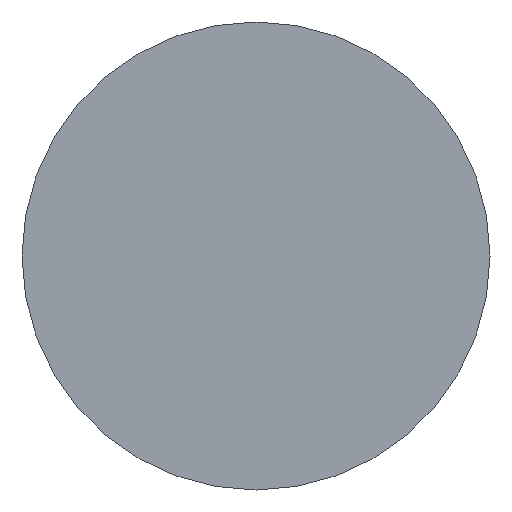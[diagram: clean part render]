
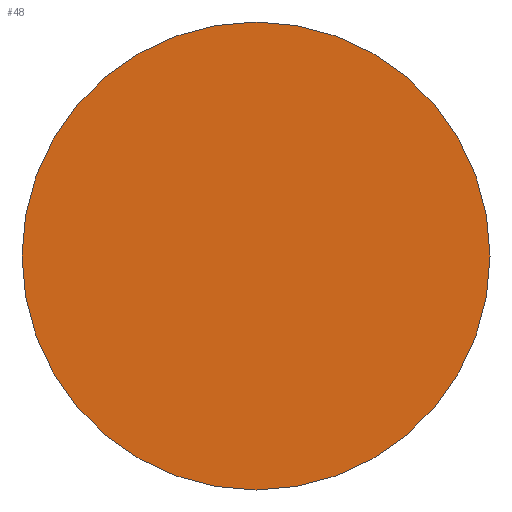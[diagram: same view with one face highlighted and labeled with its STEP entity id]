
A CAD part, front view. The second image highlights one B-rep face of the part: STEP entity #48.
In plain terms, the highlighted planar face has unit normal (0, -1, 0).
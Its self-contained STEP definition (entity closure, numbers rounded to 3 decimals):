
#1=CARTESIAN_POINT('',(0.,0.,0.));
#2=DIRECTION('',(0.,1.,0.));
#3=DIRECTION('',(1.,0.,0.));
#4=AXIS2_PLACEMENT_3D('',#1,#2,#3);
#6=CARTESIAN_POINT('',(0.,0.,0.));
#7=DIRECTION('',(0.,1.,0.));
#8=DIRECTION('',(-1.,0.,0.));
#9=AXIS2_PLACEMENT_3D('',#6,#7,#8);
#29=CARTESIAN_POINT('',(2.,0.,0.));
#30=CARTESIAN_POINT('',(-2.,0.,0.));
#31=VERTEX_POINT('',#29);
#32=VERTEX_POINT('',#30);
#37=CARTESIAN_POINT('',(0.,0.,0.));
#38=DIRECTION('',(0.,1.,0.));
#39=DIRECTION('',(1.,0.,0.));
#40=AXIS2_PLACEMENT_3D('',#37,#38,#39);
#41=PLANE('',#40);
#43=ORIENTED_EDGE('',*,*,#42,.T.);
#45=ORIENTED_EDGE('',*,*,#44,.T.);
#46=EDGE_LOOP('',(#43,#45));
#47=FACE_OUTER_BOUND('',#46,.F.);
#48=ADVANCED_FACE('',(#47),#41,.F.);
#5=CIRCLE('',#4,2.);
#10=CIRCLE('',#9,2.);
#42=EDGE_CURVE('',#31,#32,#5,.T.);
#44=EDGE_CURVE('',#32,#31,#10,.T.);
